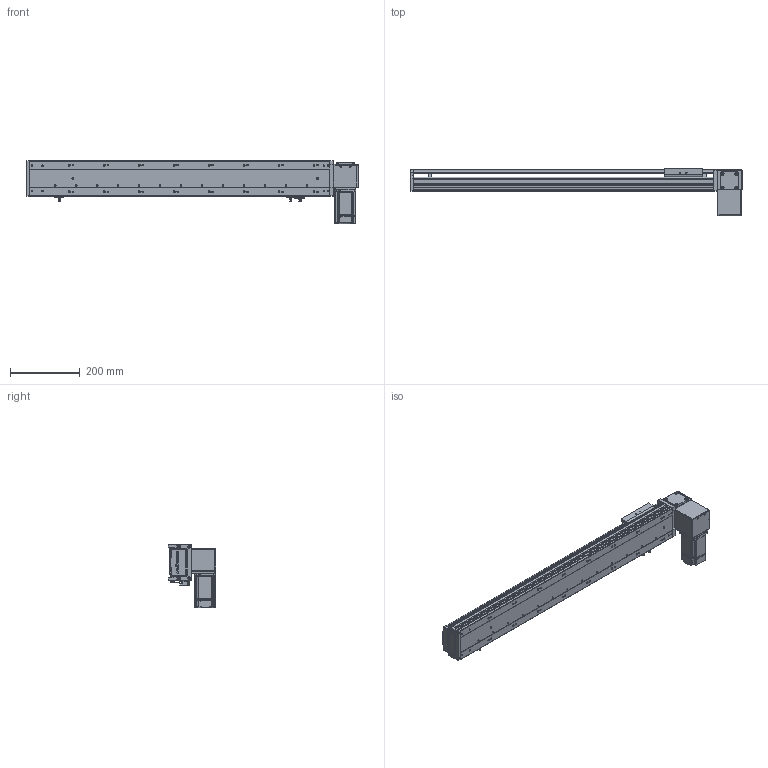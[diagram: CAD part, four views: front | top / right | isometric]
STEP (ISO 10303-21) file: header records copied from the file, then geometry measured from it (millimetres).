
FILE_DESCRIPTION (( 'STEP AP203' ), '1' );
FILE_NAME ('RY100-T-300-DL.SLDASM_650.step', '2024-04-24T01:11:00', ( '盈信电脑' ), ( '东莞市道滘镇水果街19号' ), 'SwSTEP 2.0', 'SolidWorks 2016', '' );
FILE_SCHEMA (( 'CONFIG_CONTROL_DESIGN' ));
Length unit declared in the file: millimetre
Products named in the file (16): RY100-T肮祭謫臏賑輸; RY100-T翋肮祭謫粣; RY100-T粣創揤踡裔; RY100-T-300-RK倰第菁釱_650; RY100-T-300-RK倰第奻裔_650; 1; 滅袉蝶18-10; RY100-T翋肮祭謫裔啣2; RY100-T翋肮祭謫裔啣; RY80-T肮祭謫狟殏俋欶; RY100-T左右折电机安装板; RY100俋离覜茼え; 覜茼ん672; RY100-T-300-DL.SLDASM_650; RY100-T肮祭謫翋盓傅釱; RY100綴裔啣
Assembly tree (18 placements, depth 2):
  RY100-T-300-DL.SLDASM_650
    RY100-T-300-RK倰第菁釱_650
    RY100-T-300-RK倰第奻裔_650
    RY100-T肮祭謫臏賑輸
    RY100綴裔啣
    覜茼ん672  x3
    RY100俋离覜茼え
    RY100-T翋肮祭謫粣
    RY100-T肮祭謫翋盓傅釱
    滅袉蝶18-10  x2
    RY100-T翋肮祭謫裔啣
    1
    RY100-T左右折电机安装板
    RY100-T粣創揤踡裔
    RY100-T翋肮祭謫裔啣2
    RY80-T肮祭謫狟殏俋欶
Bounding box: 950 x 135.5 x 182.5 mm (x, y, z)
Volume: 2081317.7 mm3; surface area: 838152.7 mm2
Topology: 18 solids, 18 shells, 2237 faces, 6202 edges, 4026 vertices
Faces by surface type: plane 1215, cylinder 803, cone 141, bspline 78
Entity records: 72113 total; most frequent: CARTESIAN_POINT 17424, ORIENTED_EDGE 11236, DIRECTION 10710, EDGE_CURVE 5618, VERTEX_POINT 3694, LINE 3628, VECTOR 3628, AXIS2_PLACEMENT_3D 3541
